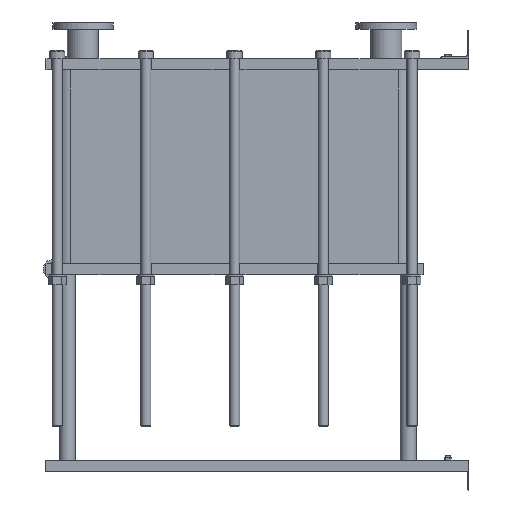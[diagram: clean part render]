
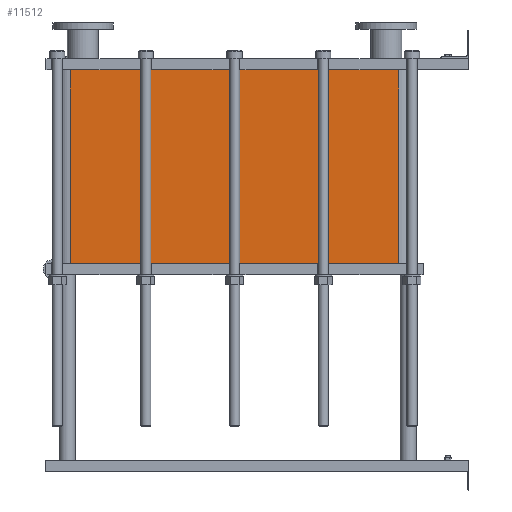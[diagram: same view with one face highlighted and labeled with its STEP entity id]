
A CAD part, left-side view. The second image highlights one B-rep face of the part: STEP entity #11512.
In plain terms, the highlighted planar face has unit normal (-1, 0, 0).
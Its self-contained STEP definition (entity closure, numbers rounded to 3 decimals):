
#1129=LINE('',#23232,#2102);
#1130=LINE('',#23236,#2103);
#1131=LINE('',#23238,#2104);
#1132=LINE('',#23239,#2105);
#2102=VECTOR('',#15887,10.);
#2103=VECTOR('',#15892,10.);
#2104=VECTOR('',#15893,10.);
#2105=VECTOR('',#15894,10.);
#3267=FACE_OUTER_BOUND('',#4093,.T.);
#4093=EDGE_LOOP('',(#10103,#10104,#10105,#10106));
#5642=VERTEX_POINT('',#23229);
#5643=VERTEX_POINT('',#23231);
#5644=VERTEX_POINT('',#23235);
#5645=VERTEX_POINT('',#23237);
#7159=EDGE_CURVE('',#5643,#5642,#1129,.T.);
#7161=EDGE_CURVE('',#5642,#5644,#1130,.T.);
#7162=EDGE_CURVE('',#5645,#5644,#1131,.T.);
#7163=EDGE_CURVE('',#5645,#5643,#1132,.T.);
#10103=ORIENTED_EDGE('',*,*,#7161,.T.);
#10104=ORIENTED_EDGE('',*,*,#7162,.F.);
#10105=ORIENTED_EDGE('',*,*,#7163,.T.);
#10106=ORIENTED_EDGE('',*,*,#7159,.T.);
#10857=PLANE('',#12751);
#11512=ADVANCED_FACE('',(#3267),#10857,.T.);
#12751=AXIS2_PLACEMENT_3D('',#23234,#15890,#15891);
#15887=DIRECTION('',(0.,0.,-1.));
#15890=DIRECTION('center_axis',(-1.,0.,0.));
#15891=DIRECTION('ref_axis',(0.,1.,0.));
#15892=DIRECTION('',(0.,-1.,0.));
#15893=DIRECTION('',(0.,0.,-1.));
#15894=DIRECTION('',(0.,1.,0.));
#23229=CARTESIAN_POINT('',(-200.,1414.,-686.55));
#23231=CARTESIAN_POINT('',(-200.,1414.,0.));
#23232=CARTESIAN_POINT('',(-200.,1414.,0.));
#23234=CARTESIAN_POINT('Origin',(-200.,248.,0.));
#23235=CARTESIAN_POINT('',(-200.,248.,-686.55));
#23236=CARTESIAN_POINT('',(-200.,539.5,-686.55));
#23237=CARTESIAN_POINT('',(-200.,248.,0.));
#23238=CARTESIAN_POINT('',(-200.,248.,0.));
#23239=CARTESIAN_POINT('',(-200.,248.,0.));
